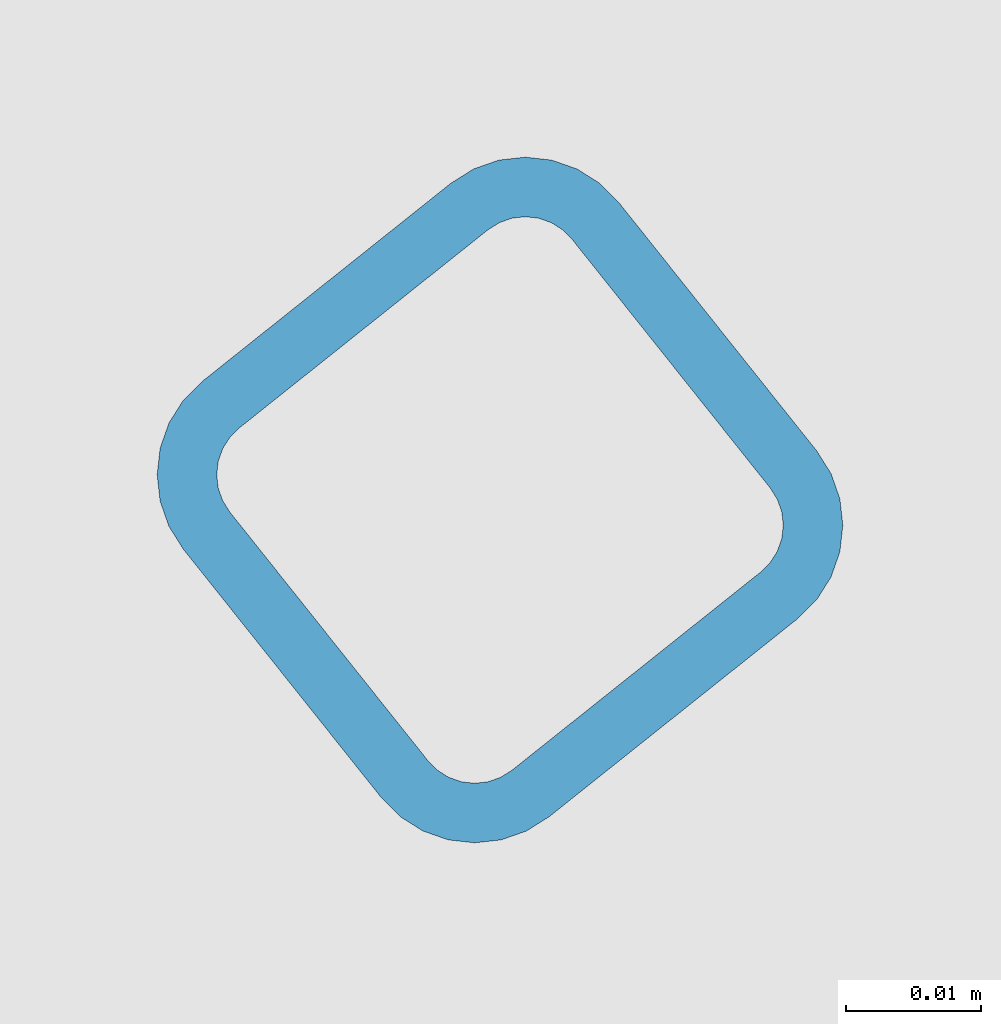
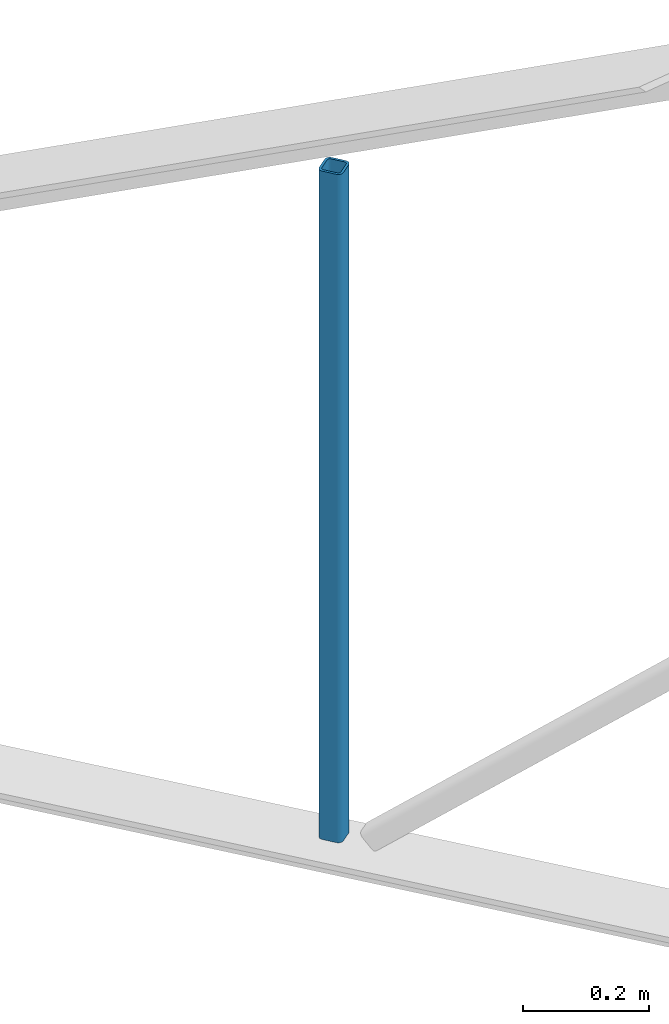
# One storey, part 5 of 15: 1 member, 1 element without a shape of its own.
"""IFC4 building model written with IfcOpenShell, lengths in metres."""

from ifc_helpers import new_model, entity, si_unit, converted_unit, derived_unit, direction, frame, origin, place, context, subcontext, project, spatial, line, arc, indexed_curve, outline, extrude, source, transform, mapped, material, type_object, type_shapes, element, aggregate, save


model = new_model("IFC4")

# Units and contexts
model_context = context("Model", 3, precision=1e-05, world=origin(), true_north=direction((6.123031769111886e-17, 1.0)))
body_context = subcontext(model_context, "Body", "Model", "MODEL_VIEW")
ifc_project = project(units=[si_unit("LENGTHUNIT", "METRE"), si_unit("AREAUNIT", "SQUARE_METRE"), si_unit("VOLUMEUNIT", "CUBIC_METRE"), converted_unit("PLANEANGLEUNIT", "DEGREE", entity("IfcRatioMeasure", 0.017453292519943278), si_unit("PLANEANGLEUNIT", "RADIAN"), dimensions=[0, 0, 0, 0, 0, 0, 0]), si_unit("MASSUNIT", "GRAM", prefix="KILO"), derived_unit("MASSDENSITYUNIT", [(si_unit("MASSUNIT", "GRAM", prefix="KILO"), 1), (si_unit("LENGTHUNIT", "METRE"), -3)]), derived_unit("MOMENTOFINERTIAUNIT", [(si_unit("LENGTHUNIT", "METRE"), 4)]), si_unit("TIMEUNIT", "SECOND"), si_unit("FREQUENCYUNIT", "HERTZ"), si_unit("THERMODYNAMICTEMPERATUREUNIT", "DEGREE_CELSIUS"), derived_unit("THERMALTRANSMITTANCEUNIT", [(si_unit("MASSUNIT", "GRAM", prefix="KILO"), 1), (si_unit("THERMODYNAMICTEMPERATUREUNIT", "KELVIN"), -1), (si_unit("TIMEUNIT", "SECOND"), -3)]), derived_unit("VOLUMETRICFLOWRATEUNIT", [(si_unit("LENGTHUNIT", "METRE"), 3), (si_unit("TIMEUNIT", "SECOND"), -1)]), derived_unit("MASSFLOWRATEUNIT", [(si_unit("MASSUNIT", "GRAM", prefix="KILO"), 1), (si_unit("TIMEUNIT", "SECOND"), -1)]), derived_unit("ROTATIONALFREQUENCYUNIT", [(si_unit("TIMEUNIT", "SECOND"), -1)]), si_unit("ELECTRICCURRENTUNIT", "AMPERE"), si_unit("ELECTRICVOLTAGEUNIT", "VOLT"), si_unit("POWERUNIT", "WATT"), si_unit("FORCEUNIT", "NEWTON", prefix="KILO"), si_unit("ILLUMINANCEUNIT", "LUX"), si_unit("LUMINOUSFLUXUNIT", "LUMEN"), si_unit("LUMINOUSINTENSITYUNIT", "CANDELA"), derived_unit("USERDEFINED", [(si_unit("MASSUNIT", "GRAM", prefix="KILO"), -1), (si_unit("LENGTHUNIT", "METRE"), -2), (si_unit("TIMEUNIT", "SECOND"), 3), (si_unit("LUMINOUSFLUXUNIT", "LUMEN"), 1)]), derived_unit("SOUNDPOWERUNIT", [(si_unit("MASSUNIT", "GRAM", prefix="KILO"), 1), (si_unit("LENGTHUNIT", "METRE"), 2), (si_unit("TIMEUNIT", "SECOND"), -3)]), derived_unit("SOUNDPRESSUREUNIT", [(si_unit("MASSUNIT", "GRAM", prefix="KILO"), 1), (si_unit("LENGTHUNIT", "METRE"), -1), (si_unit("TIMEUNIT", "SECOND"), -2)]), derived_unit("LINEARVELOCITYUNIT", [(si_unit("LENGTHUNIT", "METRE"), 1), (si_unit("TIMEUNIT", "SECOND"), -1)]), si_unit("PRESSUREUNIT", "PASCAL"), derived_unit("USERDEFINED", [(si_unit("LENGTHUNIT", "METRE"), -2), (si_unit("MASSUNIT", "GRAM", prefix="KILO"), 1), (si_unit("TIMEUNIT", "SECOND"), -2)]), derived_unit("LINEARFORCEUNIT", [(si_unit("MASSUNIT", "GRAM", prefix="KILO"), 1), (si_unit("LENGTHUNIT", "METRE"), 1), (si_unit("TIMEUNIT", "SECOND"), -2), (si_unit("LENGTHUNIT", "METRE"), -1)]), derived_unit("PLANARFORCEUNIT", [(si_unit("MASSUNIT", "GRAM", prefix="KILO"), 1), (si_unit("LENGTHUNIT", "METRE"), 1), (si_unit("TIMEUNIT", "SECOND"), -2), (si_unit("LENGTHUNIT", "METRE"), -2)])], contexts=[model_context])

# Site, building, storey
site_placement = place(None, origin())
site = spatial("IfcSite", under=ifc_project, at=site_placement, Name="Superficie", CompositionType="ELEMENT")
building_placement = place(site_placement, origin())
building = spatial("IfcBuilding", under=site, at=building_placement, CompositionType="ELEMENT")
storey_placement = place(building_placement, frame((0.0, 0.0, 7.25)))
storey = spatial("IfcBuildingStorey", under=building, at=storey_placement, Name="Nivel 2", CompositionType="ELEMENT", Elevation=7.25)

# Assembly, member
assembly_placement = place(storey_placement, origin())
assembly = element("IfcElementAssembly", 1, at=assembly_placement, inside=storey, Name="Cercha esquina:Cercha esquina", ObjectType="Cercha esquina:Cercha esquina", AssemblyPlace="NOTDEFINED", PredefinedType="TRUSS")
ifc_material = material(Name="Metal - Acero - 345 MPa", Category="Metal")
member_type = type_object("IfcMemberType", Name="HSS-Sección estructural hueca:HSS41.3X41.3X4.8", PredefinedType="BRACE", material=ifc_material)
shared_shape = source(origin(), body_context, "Body", "SweptSolid", [
    extrude(outline(indexed_curve([(-0.020650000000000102, -0.011809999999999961), (-0.01806082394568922, -0.018060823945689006), (-0.011810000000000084, -0.020649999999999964), (0.011810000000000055, -0.020649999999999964), (0.01806082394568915, -0.01806082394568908), (0.020650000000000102, -0.011809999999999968), (0.020650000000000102, 0.011809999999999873), (0.018060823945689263, 0.018060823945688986), (0.01181000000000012, 0.020649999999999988), (-0.011810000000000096, 0.020649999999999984), (-0.018060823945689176, 0.018060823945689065), (-0.020650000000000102, 0.011810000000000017)], segments=[arc(1, 2, 3), line(3, 4), arc(4, 5, 6), line(6, 7), arc(7, 8, 9), line(9, 10), arc(10, 11, 12), line(12, 1)], self_intersect=False), holes=[indexed_curve([(0.01180999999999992, -0.016230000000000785), (-0.011809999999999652, -0.016230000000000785), (-0.014935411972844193, -0.014935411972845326), (-0.016229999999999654, -0.011810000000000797), (-0.016229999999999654, 0.011809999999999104), (-0.014935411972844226, 0.01493541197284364), (-0.011809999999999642, 0.016229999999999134), (0.011809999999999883, 0.016229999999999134), (0.014935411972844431, 0.014935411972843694), (0.01622999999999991, 0.011809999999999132), (0.01622999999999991, -0.011810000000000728), (0.014935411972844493, -0.014935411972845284)], segments=[line(1, 2), arc(2, 3, 4), line(4, 5), arc(5, 6, 7), line(7, 8), arc(8, 9, 10), line(10, 11), arc(11, 12, 1)], self_intersect=False)]), frame((-0.6555, 0.0, 0.0), z_axis=(1.0, 0.0, 0.0), x_axis=(0.0, -1.0, 0.0)), (0.0, 0.0, 1.0), 1.2990000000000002),
])
type_shapes(member_type, [shared_shape])
member_placement = place(assembly_placement, frame((-20.524628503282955, 3.1012331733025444, 0.8347493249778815), z_axis=(0.623142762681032, -0.7821081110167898, 0.0), x_axis=(0.0, 0.0, 1.0)))
member = element("IfcMember", 2, at=member_placement, type_object=member_type, material=ifc_material, Name="HSS-Sección estructural hueca:HSS41.3X41.3X4.8", ObjectType="HSS-Sección estructural hueca:HSS41.3X41.3X4.8", PredefinedType="BRACE", context=body_context, shape_type="MappedRepresentation", body=[
    mapped(shared_shape, transform((0.0, 0.0, 0.0), scale=1.0)),
])
aggregate(assembly, [member])

save(model, "model.ifc")
